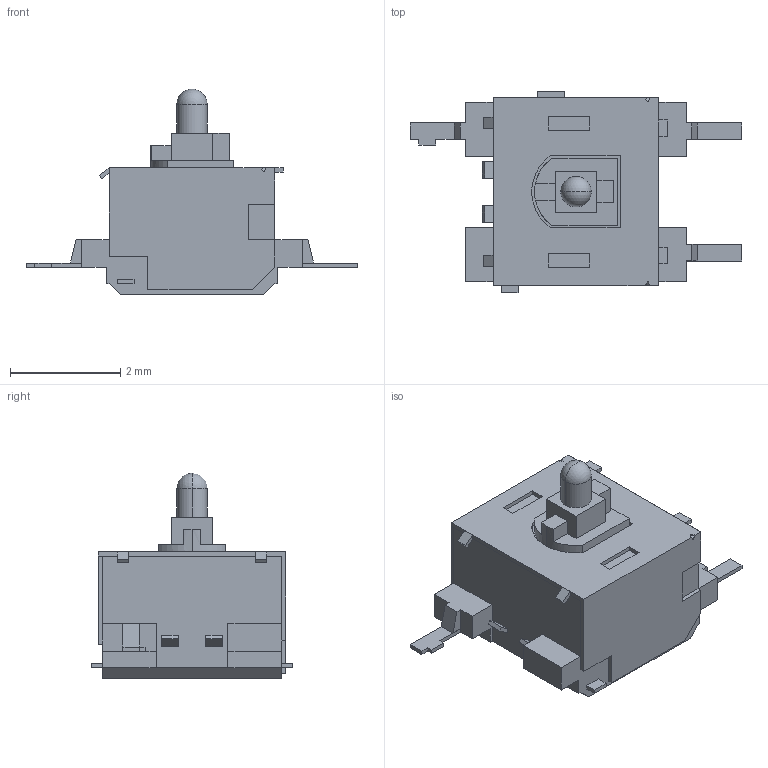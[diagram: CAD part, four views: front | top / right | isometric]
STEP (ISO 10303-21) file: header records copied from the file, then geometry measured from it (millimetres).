
FILE_DESCRIPTION (( 'STEP AP214' ), '1' );
FILE_NAME ('SPVE210100.STEP', '2011-09-16T02:02:23', ( ' ' ), ( ' ' ), 'SwSTEP 2.0', 'SolidWorks 2010', '' );
FILE_SCHEMA (( 'AUTOMOTIVE_DESIGN' ));
Length unit declared in the file: millimetre
Products named in the file (1): SPVE210100
Bounding box: 6 x 3.65 x 3.72 mm (x, y, z)
Volume: 25 mm3; surface area: 75.5 mm2
Topology: 7 solids, 7 shells, 185 faces, 474 edges, 310 vertices
Faces by surface type: plane 178, cylinder 5, sphere 2
Entity records: 6682 total; most frequent: CARTESIAN_POINT 964, ORIENTED_EDGE 940, DIRECTION 856, EDGE_CURVE 470, LINE 456, VECTOR 456, VERTEX_POINT 308, AXIS2_PLACEMENT_3D 200
